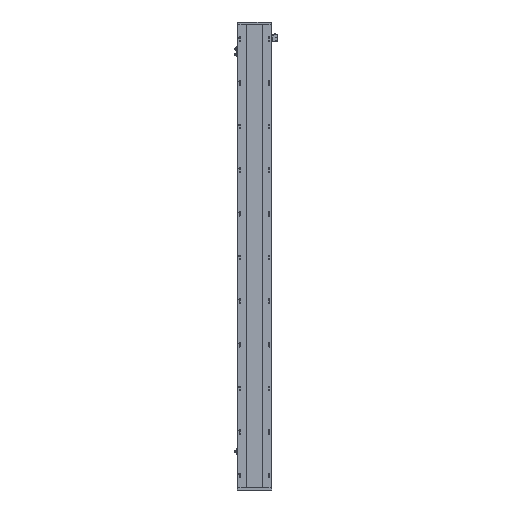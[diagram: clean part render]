
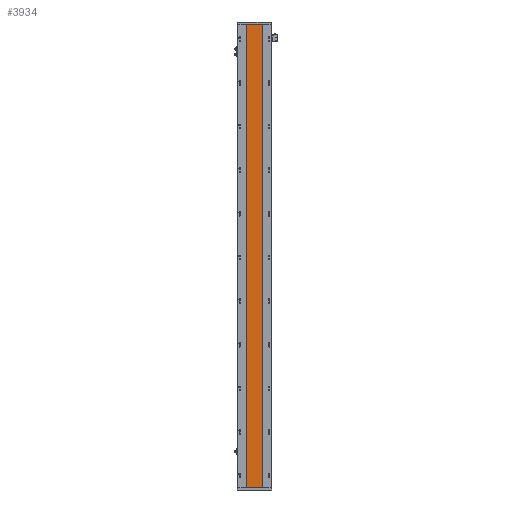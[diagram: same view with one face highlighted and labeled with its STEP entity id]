
A CAD part, front view. The second image highlights one B-rep face of the part: STEP entity #3934.
In plain terms, the highlighted planar face has unit normal (0, -1, 0).
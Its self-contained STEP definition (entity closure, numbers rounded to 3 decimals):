
#205 = DIRECTION ( 'NONE',  ( 1., 0., 0. ) ) ;
#474 = DIRECTION ( 'NONE',  ( 0., 0., -1. ) ) ;
#3934 = ADVANCED_FACE ( 'NONE', ( #29761 ), #33110, .F. ) ;
#5506 = AXIS2_PLACEMENT_3D ( 'NONE', #36627, #23826, #29841 ) ;
#5618 = EDGE_LOOP ( 'NONE', ( #32928, #41086, #29815, #29209 ) ) ;
#6411 = CARTESIAN_POINT ( 'NONE',  ( 129.288, 16.9, 2296. ) ) ;
#8009 = VECTOR ( 'NONE', #31372, 1000. ) ;
#9371 = VERTEX_POINT ( 'NONE', #22646 ) ;
#12400 = CARTESIAN_POINT ( 'NONE',  ( 205.288, 16.9, 2296. ) ) ;
#12420 = EDGE_CURVE ( 'NONE', #9371, #30201, #16760, .T. ) ;
#14735 = VECTOR ( 'NONE', #474, 1000. ) ;
#16021 = EDGE_CURVE ( 'NONE', #30201, #19479, #32575, .T. ) ;
#16072 = DIRECTION ( 'NONE',  ( 0., 0., -1. ) ) ;
#16760 = LINE ( 'NONE', #6411, #14735 ) ;
#17523 = VECTOR ( 'NONE', #205, 1000. ) ;
#19479 = VERTEX_POINT ( 'NONE', #21827 ) ;
#21827 = CARTESIAN_POINT ( 'NONE',  ( 205.288, 16.9, 0. ) ) ;
#21976 = VECTOR ( 'NONE', #16072, 1000. ) ;
#22038 = CARTESIAN_POINT ( 'NONE',  ( 205.288, 16.9, 0. ) ) ;
#22646 = CARTESIAN_POINT ( 'NONE',  ( 129.288, 16.9, 2296. ) ) ;
#23826 = DIRECTION ( 'NONE',  ( 0., 1., 0. ) ) ;
#29209 = ORIENTED_EDGE ( 'NONE', *, *, #12420, .T. ) ;
#29761 = FACE_OUTER_BOUND ( 'NONE', #5618, .T. ) ;
#29815 = ORIENTED_EDGE ( 'NONE', *, *, #34739, .F. ) ;
#29841 = DIRECTION ( 'NONE',  ( -1., 0., 0. ) ) ;
#30201 = VERTEX_POINT ( 'NONE', #37094 ) ;
#30500 = LINE ( 'NONE', #12400, #21976 ) ;
#30967 = VERTEX_POINT ( 'NONE', #41115 ) ;
#31372 = DIRECTION ( 'NONE',  ( 1., 0., 0. ) ) ;
#32575 = LINE ( 'NONE', #22038, #17523 ) ;
#32928 = ORIENTED_EDGE ( 'NONE', *, *, #16021, .T. ) ;
#33110 = PLANE ( 'NONE',  #5506 ) ;
#34739 = EDGE_CURVE ( 'NONE', #9371, #30967, #41734, .T. ) ;
#36044 = EDGE_CURVE ( 'NONE', #30967, #19479, #30500, .T. ) ;
#36627 = CARTESIAN_POINT ( 'NONE',  ( 205.288, 16.9, 2296. ) ) ;
#37094 = CARTESIAN_POINT ( 'NONE',  ( 129.288, 16.9, 0. ) ) ;
#41086 = ORIENTED_EDGE ( 'NONE', *, *, #36044, .F. ) ;
#41115 = CARTESIAN_POINT ( 'NONE',  ( 205.288, 16.9, 2296. ) ) ;
#41404 = CARTESIAN_POINT ( 'NONE',  ( 129.288, 16.9, 2296. ) ) ;
#41734 = LINE ( 'NONE', #41404, #8009 ) ;
